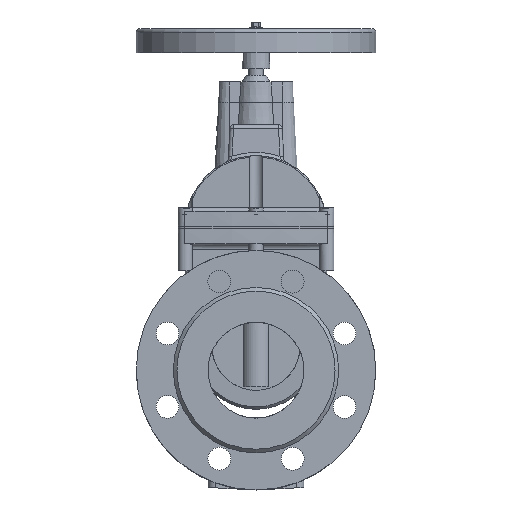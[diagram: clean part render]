
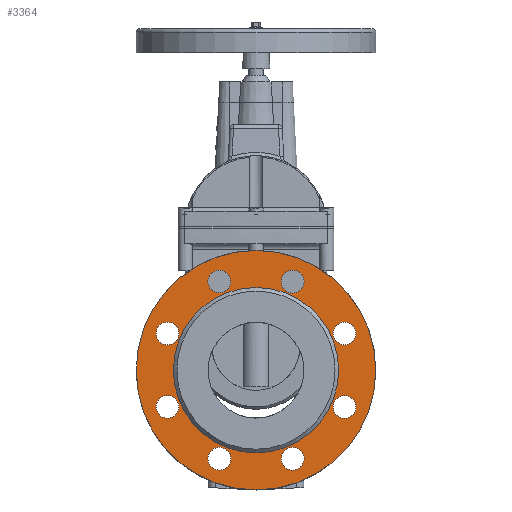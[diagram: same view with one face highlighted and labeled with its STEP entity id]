
A CAD part, left-side view. The second image highlights one B-rep face of the part: STEP entity #3364.
In plain terms, the highlighted planar face has unit normal (-1, 0, 0).
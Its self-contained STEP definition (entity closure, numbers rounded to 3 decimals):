
#3364=ADVANCED_FACE('',(#8461,#8463,#8465,#8467,#8469,#8471,#8473,#8475,#8477,#8479),
#8481,.F.);
#8461=FACE_BOUND('',#8462,.T.);
#8462=EDGE_LOOP('',(#17001));
#8463=FACE_BOUND('',#8464,.T.);
#8464=EDGE_LOOP('',(#17002));
#8465=FACE_BOUND('',#8466,.T.);
#8466=EDGE_LOOP('',(#17003));
#8467=FACE_BOUND('',#8468,.T.);
#8468=EDGE_LOOP('',(#17004));
#8469=FACE_BOUND('',#8470,.T.);
#8470=EDGE_LOOP('',(#17005));
#8471=FACE_BOUND('',#8472,.T.);
#8472=EDGE_LOOP('',(#17006));
#8473=FACE_BOUND('',#8474,.T.);
#8474=EDGE_LOOP('',(#17007));
#8475=FACE_BOUND('',#8476,.T.);
#8476=EDGE_LOOP('',(#17008));
#8477=FACE_BOUND('',#8478,.T.);
#8478=EDGE_LOOP('',(#17009));
#8479=FACE_BOUND('',#8480,.T.);
#8480=EDGE_LOOP('',(#17010));
#8481=PLANE('',#8482);
#8482=AXIS2_PLACEMENT_3D('',#8483,#8484,#8485);
#8483=CARTESIAN_POINT('',(-137.,0.,0.));
#8484=DIRECTION('',(1.,0.,0.));
#8485=DIRECTION('',(0.,1.,0.));
#17001=ORIENTED_EDGE('',*,*,#19648,.F.);
#17002=ORIENTED_EDGE('',*,*,#19662,.T.);
#17003=ORIENTED_EDGE('',*,*,#19661,.T.);
#17004=ORIENTED_EDGE('',*,*,#19660,.T.);
#17005=ORIENTED_EDGE('',*,*,#19659,.T.);
#17006=ORIENTED_EDGE('',*,*,#19658,.T.);
#17007=ORIENTED_EDGE('',*,*,#19657,.T.);
#17008=ORIENTED_EDGE('',*,*,#19656,.T.);
#17009=ORIENTED_EDGE('',*,*,#19827,.F.);
#17010=ORIENTED_EDGE('',*,*,#19655,.T.);
#19648=EDGE_CURVE('',#22296,#22296,#22297,.T.);
#19655=EDGE_CURVE('',#22306,#22306,#22307,.T.);
#19656=EDGE_CURVE('',#22308,#22308,#22309,.T.);
#19657=EDGE_CURVE('',#22310,#22310,#22311,.T.);
#19658=EDGE_CURVE('',#22312,#22312,#22313,.T.);
#19659=EDGE_CURVE('',#22314,#22314,#22315,.T.);
#19660=EDGE_CURVE('',#22316,#22316,#22317,.T.);
#19661=EDGE_CURVE('',#22318,#22318,#22319,.T.);
#19662=EDGE_CURVE('',#22320,#22320,#22321,.T.);
#19827=EDGE_CURVE('',#22573,#22573,#22574,.T.);
#22296=VERTEX_POINT('',#30695);
#22297=CIRCLE('',#30696,100.);
#22306=VERTEX_POINT('',#30722);
#22307=CIRCLE('',#30723,9.5);
#22308=VERTEX_POINT('',#30727);
#22309=CIRCLE('',#30728,9.5);
#22310=VERTEX_POINT('',#30732);
#22311=CIRCLE('',#30733,9.5);
#22312=VERTEX_POINT('',#30737);
#22313=CIRCLE('',#30738,9.5);
#22314=VERTEX_POINT('',#30742);
#22315=CIRCLE('',#30743,9.5);
#22316=VERTEX_POINT('',#30747);
#22317=CIRCLE('',#30748,9.5);
#22318=VERTEX_POINT('',#30752);
#22319=CIRCLE('',#30753,9.5);
#22320=VERTEX_POINT('',#30757);
#22321=CIRCLE('',#30758,9.5);
#22573=VERTEX_POINT('',#31497);
#22574=CIRCLE('',#31498,69.);
#30695=CARTESIAN_POINT('',(-137.,100.,0.));
#30696=AXIS2_PLACEMENT_3D('',#30697,#30698,#30699);
#30697=CARTESIAN_POINT('',(-137.,0.,0.));
#30698=DIRECTION('',(1.,0.,0.));
#30699=DIRECTION('',(0.,1.,0.));
#30722=CARTESIAN_POINT('',(-137.,83.41,30.615));
#30723=AXIS2_PLACEMENT_3D('',#30724,#30725,#30726);
#30724=CARTESIAN_POINT('',(-137.,73.91,30.615));
#30725=DIRECTION('',(1.,0.,0.));
#30726=DIRECTION('',(0.,1.,0.));
#30727=CARTESIAN_POINT('',(-137.,80.628,-37.332));
#30728=AXIS2_PLACEMENT_3D('',#30729,#30730,#30731);
#30729=CARTESIAN_POINT('',(-137.,73.91,-30.615));
#30730=DIRECTION('',(1.,0.,0.));
#30731=DIRECTION('',(0.,0.707,-0.707));
#30732=CARTESIAN_POINT('',(-137.,30.615,-83.41));
#30733=AXIS2_PLACEMENT_3D('',#30734,#30735,#30736);
#30734=CARTESIAN_POINT('',(-137.,30.615,-73.91));
#30735=DIRECTION('',(1.,0.,0.));
#30736=DIRECTION('',(0.,0.,-1.));
#30737=CARTESIAN_POINT('',(-137.,-37.332,-80.628));
#30738=AXIS2_PLACEMENT_3D('',#30739,#30740,#30741);
#30739=CARTESIAN_POINT('',(-137.,-30.615,-73.91));
#30740=DIRECTION('',(1.,0.,0.));
#30741=DIRECTION('',(0.,-0.707,-0.707));
#30742=CARTESIAN_POINT('',(-137.,-83.41,-30.615));
#30743=AXIS2_PLACEMENT_3D('',#30744,#30745,#30746);
#30744=CARTESIAN_POINT('',(-137.,-73.91,-30.615));
#30745=DIRECTION('',(1.,0.,0.));
#30746=DIRECTION('',(0.,-1.,0.));
#30747=CARTESIAN_POINT('',(-137.,-80.628,37.332));
#30748=AXIS2_PLACEMENT_3D('',#30749,#30750,#30751);
#30749=CARTESIAN_POINT('',(-137.,-73.91,30.615));
#30750=DIRECTION('',(1.,0.,0.));
#30751=DIRECTION('',(0.,-0.707,0.707));
#30752=CARTESIAN_POINT('',(-137.,-30.615,83.41));
#30753=AXIS2_PLACEMENT_3D('',#30754,#30755,#30756);
#30754=CARTESIAN_POINT('',(-137.,-30.615,73.91));
#30755=DIRECTION('',(1.,0.,0.));
#30756=DIRECTION('',(0.,0.,1.));
#30757=CARTESIAN_POINT('',(-137.,37.332,80.628));
#30758=AXIS2_PLACEMENT_3D('',#30759,#30760,#30761);
#30759=CARTESIAN_POINT('',(-137.,30.615,73.91));
#30760=DIRECTION('',(1.,0.,0.));
#30761=DIRECTION('',(0.,0.707,0.707));
#31497=CARTESIAN_POINT('',(-137.,-69.,0.));
#31498=AXIS2_PLACEMENT_3D('',#31499,#31500,#31501);
#31499=CARTESIAN_POINT('',(-137.,0.,0.));
#31500=DIRECTION('',(-1.,0.,0.));
#31501=DIRECTION('',(0.,-1.,0.));
